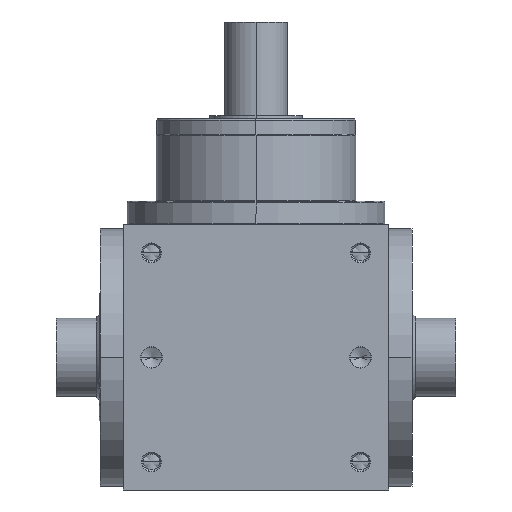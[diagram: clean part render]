
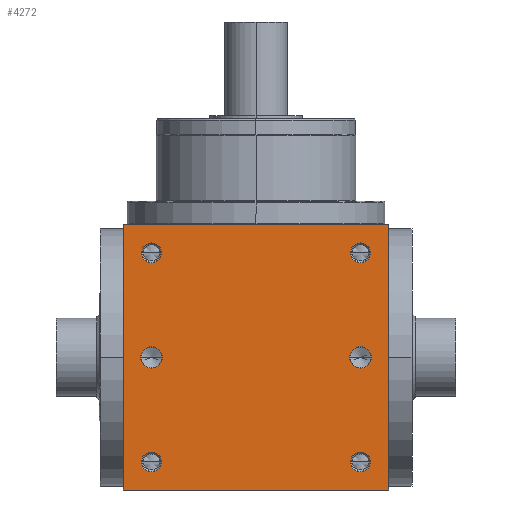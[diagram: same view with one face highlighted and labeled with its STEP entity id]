
A CAD part, front view. The second image highlights one B-rep face of the part: STEP entity #4272.
In plain terms, the highlighted planar face has unit normal (0, -1, 0).
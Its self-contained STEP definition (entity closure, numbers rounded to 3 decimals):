
#5=DIRECTION('',(1.,0.,0.));
#6=VECTOR('',#5,170.);
#7=CARTESIAN_POINT('',(-85.,-85.,-85.));
#8=LINE('',#7,#6);
#155=DIRECTION('',(0.,0.,1.));
#156=VECTOR('',#155,170.);
#157=CARTESIAN_POINT('',(85.,-85.,-85.));
#158=LINE('',#157,#156);
#209=DIRECTION('',(0.,0.,1.));
#210=VECTOR('',#209,170.);
#211=CARTESIAN_POINT('',(-85.,-85.,-85.));
#212=LINE('',#211,#210);
#213=CARTESIAN_POINT('',(67.,-85.,67.));
#214=DIRECTION('',(0.,1.,0.));
#215=DIRECTION('',(-1.,0.,0.));
#216=AXIS2_PLACEMENT_3D('',#213,#214,#215);
#218=CARTESIAN_POINT('',(67.,-85.,67.));
#219=DIRECTION('',(0.,1.,0.));
#220=DIRECTION('',(1.,0.,0.));
#221=AXIS2_PLACEMENT_3D('',#218,#219,#220);
#223=CARTESIAN_POINT('',(-67.,-85.,67.));
#224=DIRECTION('',(0.,1.,0.));
#225=DIRECTION('',(-1.,0.,0.));
#226=AXIS2_PLACEMENT_3D('',#223,#224,#225);
#228=CARTESIAN_POINT('',(-67.,-85.,67.));
#229=DIRECTION('',(0.,1.,0.));
#230=DIRECTION('',(1.,0.,0.));
#231=AXIS2_PLACEMENT_3D('',#228,#229,#230);
#233=CARTESIAN_POINT('',(67.,-85.,-67.));
#234=DIRECTION('',(0.,1.,0.));
#235=DIRECTION('',(-1.,0.,0.));
#236=AXIS2_PLACEMENT_3D('',#233,#234,#235);
#238=CARTESIAN_POINT('',(67.,-85.,-67.));
#239=DIRECTION('',(0.,1.,0.));
#240=DIRECTION('',(1.,0.,0.));
#241=AXIS2_PLACEMENT_3D('',#238,#239,#240);
#243=CARTESIAN_POINT('',(-67.,-85.,-67.));
#244=DIRECTION('',(0.,1.,0.));
#245=DIRECTION('',(-1.,0.,0.));
#246=AXIS2_PLACEMENT_3D('',#243,#244,#245);
#248=CARTESIAN_POINT('',(-67.,-85.,-67.));
#249=DIRECTION('',(0.,1.,0.));
#250=DIRECTION('',(1.,0.,0.));
#251=AXIS2_PLACEMENT_3D('',#248,#249,#250);
#253=CARTESIAN_POINT('',(-67.,-85.,0.));
#254=DIRECTION('',(0.,1.,0.));
#255=DIRECTION('',(1.,0.,0.));
#256=AXIS2_PLACEMENT_3D('',#253,#254,#255);
#258=CARTESIAN_POINT('',(-67.,-85.,0.));
#259=DIRECTION('',(0.,1.,0.));
#260=DIRECTION('',(-1.,0.,0.));
#261=AXIS2_PLACEMENT_3D('',#258,#259,#260);
#263=CARTESIAN_POINT('',(67.,-85.,0.));
#264=DIRECTION('',(0.,1.,0.));
#265=DIRECTION('',(1.,0.,0.));
#266=AXIS2_PLACEMENT_3D('',#263,#264,#265);
#268=CARTESIAN_POINT('',(67.,-85.,0.));
#269=DIRECTION('',(0.,1.,0.));
#270=DIRECTION('',(-1.,0.,0.));
#271=AXIS2_PLACEMENT_3D('',#268,#269,#270);
#285=DIRECTION('',(1.,0.,0.));
#286=VECTOR('',#285,170.);
#287=CARTESIAN_POINT('',(-85.,-85.,85.));
#288=LINE('',#287,#286);
#3446=CARTESIAN_POINT('',(-85.,-85.,-85.));
#3448=VERTEX_POINT('',#3446);
#3449=CARTESIAN_POINT('',(85.,-85.,-85.));
#3450=VERTEX_POINT('',#3449);
#3454=CARTESIAN_POINT('',(-85.,-85.,85.));
#3456=VERTEX_POINT('',#3454);
#3457=CARTESIAN_POINT('',(85.,-85.,85.));
#3458=VERTEX_POINT('',#3457);
#3613=CARTESIAN_POINT('',(60.65,-85.,67.));
#3614=CARTESIAN_POINT('',(73.35,-85.,67.));
#3615=VERTEX_POINT('',#3613);
#3616=VERTEX_POINT('',#3614);
#3621=CARTESIAN_POINT('',(-73.35,-85.,67.));
#3622=CARTESIAN_POINT('',(-60.65,-85.,67.));
#3623=VERTEX_POINT('',#3621);
#3624=VERTEX_POINT('',#3622);
#3629=CARTESIAN_POINT('',(60.65,-85.,-67.));
#3630=CARTESIAN_POINT('',(73.35,-85.,-67.));
#3631=VERTEX_POINT('',#3629);
#3632=VERTEX_POINT('',#3630);
#3637=CARTESIAN_POINT('',(-73.35,-85.,-67.));
#3638=CARTESIAN_POINT('',(-60.65,-85.,-67.));
#3639=VERTEX_POINT('',#3637);
#3640=VERTEX_POINT('',#3638);
#3961=CARTESIAN_POINT('',(-60.15,-85.,0.));
#3962=CARTESIAN_POINT('',(-73.85,-85.,
0.));
#3963=VERTEX_POINT('',#3961);
#3964=VERTEX_POINT('',#3962);
#3969=CARTESIAN_POINT('',(73.85,-85.,0.));
#3970=CARTESIAN_POINT('',(60.15,-85.,0.));
#3971=VERTEX_POINT('',#3969);
#3972=VERTEX_POINT('',#3970);
#4224=CARTESIAN_POINT('',(-85.,-85.,-85.));
#4225=DIRECTION('',(0.,-1.,0.));
#4226=DIRECTION('',(1.,0.,0.));
#4227=AXIS2_PLACEMENT_3D('',#4224,#4225,#4226);
#4228=PLANE('',#4227);
#4229=ORIENTED_EDGE('',*,*,#4064,.F.);
#4230=ORIENTED_EDGE('',*,*,#4107,.T.);
#4232=ORIENTED_EDGE('',*,*,#4231,.T.);
#4233=ORIENTED_EDGE('',*,*,#4186,.F.);
#4234=EDGE_LOOP('',(#4229,#4230,#4232,#4233));
#4235=FACE_OUTER_BOUND('',#4234,.F.);
#4237=ORIENTED_EDGE('',*,*,#4236,.F.);
#4239=ORIENTED_EDGE('',*,*,#4238,.F.);
#4240=EDGE_LOOP('',(#4237,#4239));
#4241=FACE_BOUND('',#4240,.F.);
#4243=ORIENTED_EDGE('',*,*,#4242,.F.);
#4245=ORIENTED_EDGE('',*,*,#4244,.F.);
#4246=EDGE_LOOP('',(#4243,#4245));
#4247=FACE_BOUND('',#4246,.F.);
#4249=ORIENTED_EDGE('',*,*,#4248,.F.);
#4251=ORIENTED_EDGE('',*,*,#4250,.F.);
#4252=EDGE_LOOP('',(#4249,#4251));
#4253=FACE_BOUND('',#4252,.F.);
#4255=ORIENTED_EDGE('',*,*,#4254,.F.);
#4257=ORIENTED_EDGE('',*,*,#4256,.F.);
#4258=EDGE_LOOP('',(#4255,#4257));
#4259=FACE_BOUND('',#4258,.F.);
#4261=ORIENTED_EDGE('',*,*,#4260,.F.);
#4263=ORIENTED_EDGE('',*,*,#4262,.F.);
#4264=EDGE_LOOP('',(#4261,#4263));
#4265=FACE_BOUND('',#4264,.F.);
#4267=ORIENTED_EDGE('',*,*,#4266,.F.);
#4269=ORIENTED_EDGE('',*,*,#4268,.F.);
#4270=EDGE_LOOP('',(#4267,#4269));
#4271=FACE_BOUND('',#4270,.F.);
#4272=ADVANCED_FACE('',(#4235,#4241,#4247,#4253,#4259,#4265,#4271),#4228,.T.);
#217=CIRCLE('',#216,6.35);
#222=CIRCLE('',#221,6.35);
#227=CIRCLE('',#226,6.35);
#232=CIRCLE('',#231,6.35);
#237=CIRCLE('',#236,6.35);
#242=CIRCLE('',#241,6.35);
#247=CIRCLE('',#246,6.35);
#252=CIRCLE('',#251,6.35);
#257=CIRCLE('',#256,6.85);
#262=CIRCLE('',#261,6.85);
#267=CIRCLE('',#266,6.85);
#272=CIRCLE('',#271,6.85);
#4064=EDGE_CURVE('',#3448,#3450,#8,.T.);
#4107=EDGE_CURVE('',#3448,#3456,#212,.T.);
#4186=EDGE_CURVE('',#3450,#3458,#158,.T.);
#4231=EDGE_CURVE('',#3456,#3458,#288,.T.);
#4236=EDGE_CURVE('',#3615,#3616,#217,.T.);
#4238=EDGE_CURVE('',#3616,#3615,#222,.T.);
#4242=EDGE_CURVE('',#3623,#3624,#227,.T.);
#4244=EDGE_CURVE('',#3624,#3623,#232,.T.);
#4248=EDGE_CURVE('',#3631,#3632,#237,.T.);
#4250=EDGE_CURVE('',#3632,#3631,#242,.T.);
#4254=EDGE_CURVE('',#3639,#3640,#247,.T.);
#4256=EDGE_CURVE('',#3640,#3639,#252,.T.);
#4260=EDGE_CURVE('',#3963,#3964,#257,.T.);
#4262=EDGE_CURVE('',#3964,#3963,#262,.T.);
#4266=EDGE_CURVE('',#3971,#3972,#267,.T.);
#4268=EDGE_CURVE('',#3972,#3971,#272,.T.);
